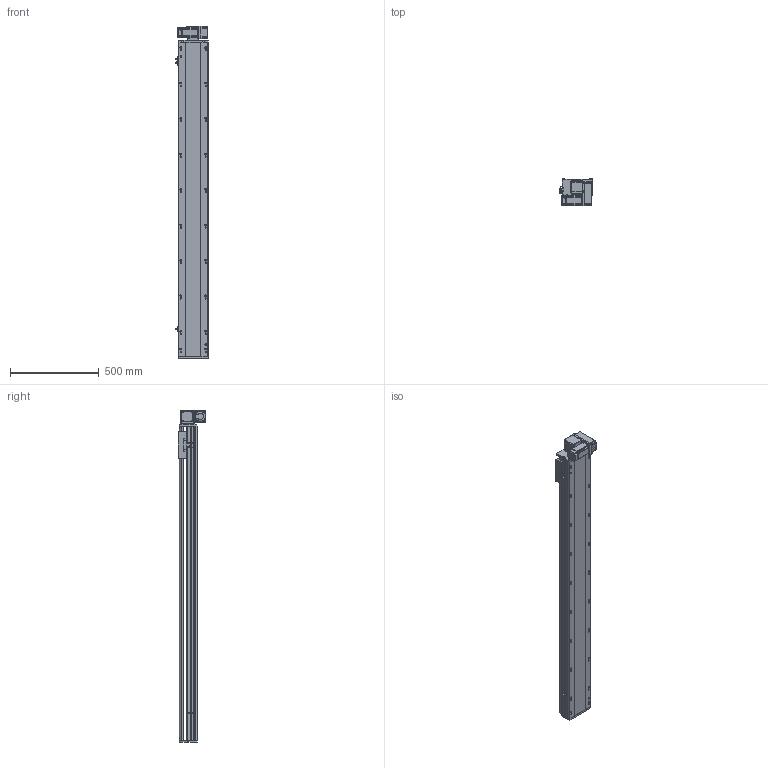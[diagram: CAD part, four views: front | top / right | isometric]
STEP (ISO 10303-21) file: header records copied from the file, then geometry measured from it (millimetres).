
FILE_DESCRIPTION (( 'STEP AP214' ), '1' );
FILE_NAME ('RTB17S-XX-1500-RM-M40-C4.STEP', '2025-12-11T08:19:56', ( '' ), ( '' ), 'SwSTEP 2.0', 'SolidWorks 2018', '' );
FILE_SCHEMA (( 'AUTOMOTIVE_DESIGN' ));
Length unit declared in the file: millimetre
Products named in the file (14): RTB17S-L-004佪裝蹟譫蟀諉釱^RTB17S-XX-XX-RM-M40-C4; RTB17S-L-007奻裔^RTB17S-XX-XX-RM-M40-C4; RTB14-L-008-M20--萇儂啣^RTB17S-RM-々湍釱蚾饜-400W_RTB17S-XX-XX-RM-M40-C4; RTB14-L-018P^RTB17S-RM-々湍釱蚾饜-400W_RTB17S-XX-XX-RM-M40-C4; 400W侜督萇儂^RTB17S-XX-XX-RM-M40-C4; RTH13-BL-012覜茼え俋离^RTB17S-XX-XX-RM-M40-C4; OMRON EE-SX672 传感器^RTB17S-XX-XX-RM-M40-C4; RTB17S-L-001耜醱啣^RTB17S-XX-XX-RM-M40-C4; RTB17-R-011菁釱^RTB17S-XX-XX-RM-M40-C4; RTB14-L-017P^RTB17S-RM-々湍釱蚾饜-400W_RTB17S-XX-XX-RM-M40-C4; RTB17S-RM-々湍釱蚾饜-400W^RTB17S-XX-XX-RM-M40-C4; RTB17S-L-014-T20--々湍釱^RTB17S-RM-々湍釱蚾饜-400W_RTB17S-XX-XX-RM-M40-C4; RTB17S-XX-1500-RM-M40-C4; RTB14-L-005P--轴承塑胶压盖^RTB17S-RM-皮带座装配-400W_RTB17S-XX-XX-RM-M40-C4
Assembly tree (16 placements, depth 3):
  RTB17S-XX-1500-RM-M40-C4
    RTB17-R-011菁釱^RTB17S-XX-XX-RM-M40-C4
    RTB17S-L-007奻裔^RTB17S-XX-XX-RM-M40-C4
    OMRON EE-SX672 传感器^RTB17S-XX-XX-RM-M40-C4  x3
    RTB17S-L-001耜醱啣^RTB17S-XX-XX-RM-M40-C4
    400W侜督萇儂^RTB17S-XX-XX-RM-M40-C4
    RTB17S-L-004佪裝蹟譫蟀諉釱^RTB17S-XX-XX-RM-M40-C4
    RTH13-BL-012覜茼え俋离^RTB17S-XX-XX-RM-M40-C4
    RTB17S-RM-々湍釱蚾饜-400W^RTB17S-XX-XX-RM-M40-C4
      RTB17S-L-014-T20--々湍釱^RTB17S-RM-々湍釱蚾饜-400W_RTB17S-XX-XX-RM-M40-C4
      RTB14-L-005P--轴承塑胶压盖^RTB17S-RM-皮带座装配-400W_RTB17S-XX-XX-RM-M40-C4
      RTB14-L-008-M20--萇儂啣^RTB17S-RM-々湍釱蚾饜-400W_RTB17S-XX-XX-RM-M40-C4
      RTB14-L-017P^RTB17S-RM-々湍釱蚾饜-400W_RTB17S-XX-XX-RM-M40-C4  x2
      RTB14-L-018P^RTB17S-RM-々湍釱蚾饜-400W_RTB17S-XX-XX-RM-M40-C4
Bounding box: 183.5 x 156.5 x 1872.5 mm (x, y, z)
Volume: 16449197.5 mm3; surface area: 1943609.8 mm2
Topology: 15 solids, 15 shells, 2253 faces, 6249 edges, 4077 vertices
Faces by surface type: plane 1074, cylinder 731, bspline 301, cone 139, torus 8
Entity records: 64937 total; most frequent: CARTESIAN_POINT 18254, ORIENTED_EDGE 9342, DIRECTION 8666, EDGE_CURVE 4671, VERTEX_POINT 3065, AXIS2_PLACEMENT_3D 2995, LINE 2676, VECTOR 2676
